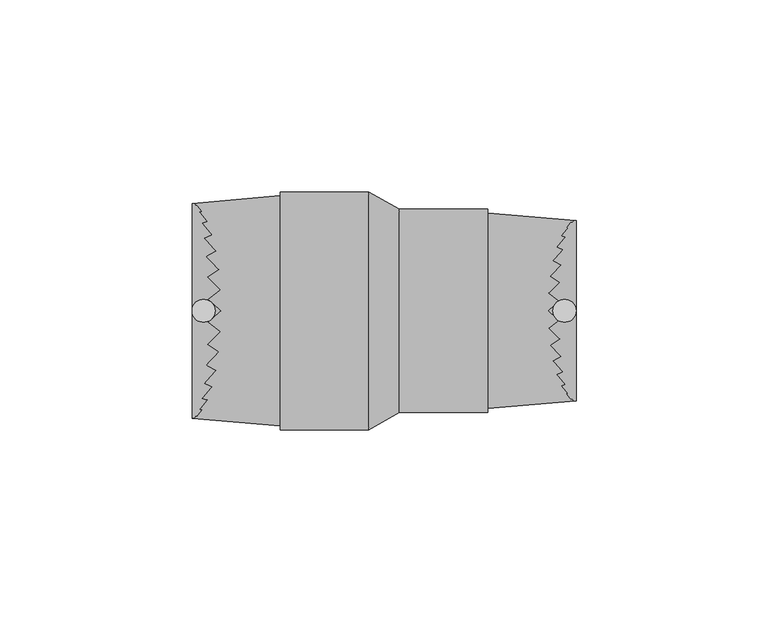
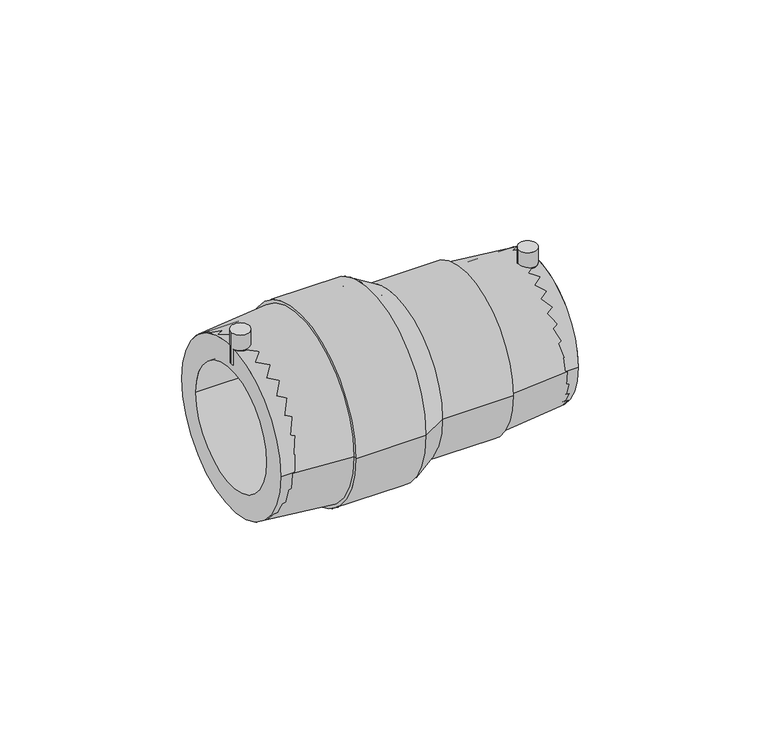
"""IFC4 building model written with IfcOpenShell, lengths in millimetres: pipe fitting geometry, EGB_VASEN_ PPR_Manguito reductor electrosoldable WXRD110 : Manguito reductor electrosoldable WXRD110."""

from ifc_helpers import new_model, si_unit, point, frame, frame_2d, origin, origin_2d, place, context, project, spatial, polyline, circle_curve, trimmed, segment, composite_curve, outline, extrude, source, transform, mapped, element, save
from ifc_brep_helpers import plane_surface, cylinder_surface, revolved_surface, advanced_brep


def pipe_fitting_1388f5a4(model_context):
    return source(origin(), model_context, "Body", "SolidModel", [
        extrude(outline(composite_curve([segment(trimmed(circle_curve(frame_2d((47.0, 0.0)), 3.0), [point((44.0, 0.0))], [point((50.0, 0.0))], False, "CARTESIAN"), True, "CONTINUOUS"), segment(trimmed(circle_curve(frame_2d((47.0, 0.0)), 3.0), [point((50.0, 0.0))], [point((44.0, 0.0))], False, "CARTESIAN"), True, "CONTINUOUS")], self_intersect=False)), frame((0.0, 0.0, 18.0), z_axis=(0.0, 0.0, 1.0), x_axis=(1.0, 0.0, 0.0)), (0.0, 0.0, 1.0), 10.5),
        extrude(outline(composite_curve([segment(trimmed(circle_curve(frame_2d((-47.0, 0.0)), 3.0), [point((-50.0, 0.0))], [point((-44.0, 0.0))], False, "CARTESIAN"), True, "CONTINUOUS"), segment(trimmed(circle_curve(frame_2d((-47.0, 0.0)), 3.0), [point((-44.0, 0.0))], [point((-50.0, 0.0))], False, "CARTESIAN"), True, "CONTINUOUS")], self_intersect=False)), frame((0.0, 0.0, 22.0), z_axis=(0.0, 0.0, 1.0), x_axis=(1.0, 0.0, 0.0)), (0.0, 0.0, 1.0), 11.0),
        extrude(outline(composite_curve([segment(trimmed(circle_curve(origin_2d(), 23.5), [point((-23.5, 0.0))], [point((23.5, 0.0))], False, "CARTESIAN"), True, "CONTINUOUS"), segment(trimmed(circle_curve(origin_2d(), 23.5), [point((23.5, 0.0))], [point((-23.5, 0.0))], False, "CARTESIAN"), True, "CONTINUOUS")], self_intersect=False), holes=[composite_curve([segment(trimmed(circle_curve(origin_2d(), 16.0), [point((-16.0, 0.0))], [point((16.0, 0.0))], True, "CARTESIAN"), True, "CONTINUOUS"), segment(trimmed(circle_curve(origin_2d(), 16.0), [point((16.0, 0.0))], [point((-16.0, 0.0))], True, "CARTESIAN"), True, "CONTINUOUS")], self_intersect=False)]), frame((4.0, 0.0, 0.0), z_axis=(1.0, 0.0, 0.0), x_axis=(0.0, 1.0, 0.0)), (0.0, 0.0, 1.0), 46.0),
        extrude(outline(composite_curve([segment(trimmed(circle_curve(origin_2d(), 28.0), [point((-28.0, 0.0))], [point((28.0, 0.0))], False, "CARTESIAN"), True, "CONTINUOUS"), segment(trimmed(circle_curve(origin_2d(), 28.0), [point((28.0, 0.0))], [point((-28.0, 0.0))], False, "CARTESIAN"), True, "CONTINUOUS")], self_intersect=False), holes=[composite_curve([segment(trimmed(circle_curve(origin_2d(), 20.0), [point((-20.0, 0.0))], [point((20.0, 0.0))], True, "CARTESIAN"), True, "CONTINUOUS"), segment(trimmed(circle_curve(origin_2d(), 20.0), [point((20.0, 0.0))], [point((-20.0, 0.0))], True, "CARTESIAN"), True, "CONTINUOUS")], self_intersect=False)]), frame((-50.0, 0.0, 0.0), z_axis=(1.0, 0.0, 0.0), x_axis=(0.0, 1.0, 0.0)), (0.0, 0.0, 1.0), 46.0),
        advanced_brep(
        [(4.0, -23.5, 0.0), (4.0, 23.5, 0.0), (-4.0, -28.0, 0.0), (-4.0, 28.0, 0.0)],
        [
            (0, 1, circle_curve(frame((4.0, 0.0, 0.0), z_axis=(1.0, 0.0, 0.0), x_axis=(0.0, -1.0, 0.0)), 23.5)),
            (1, 0, circle_curve(frame((4.0, 0.0, 0.0), z_axis=(1.0, 0.0, 0.0), x_axis=(0.0, 1.0, 0.0)), 23.5)),
            (2, 3, circle_curve(frame((-4.0, 0.0, 0.0), z_axis=(-1.0, 0.0, 0.0), x_axis=(0.0, 1.0, 0.0)), 28.0)),
            (3, 2, circle_curve(frame((-4.0, 0.0, 0.0), z_axis=(-1.0, 0.0, 0.0), x_axis=(0.0, -1.0, 0.0)), 28.0)),
            (3, 1),
            (0, 2),
        ],
        [
            plane_surface(frame((4.0, 0.0, 0.0), z_axis=(1.0, 0.0, 0.0), x_axis=(0.0, 0.0, -1.0))),
            plane_surface(frame((-4.0, 0.0, 0.0), z_axis=(-1.0, 0.0, 0.0), x_axis=(0.0, 0.0, -1.0))),
            revolved_surface(polyline([(4.0, -23.50000000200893, 0.0), (-4.0, -28.0, 0.0)]), (45.7777778, 0.0, 0.0), (-1.0, 0.0, 0.0)),
            revolved_surface(polyline([(4.0, 23.50000000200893, 0.0), (-4.0, 28.0, 0.0)]), (45.7777778, 0.0, 0.0), (-1.0, 0.0, 0.0)),
        ],
        [
            (0, [[1, 2]]),
            (1, [[3, 4]]),
            (2, [[-4, 5, -1, 6]]),
            (3, [[-3, -6, -2, -5]]),
        ],
    ),
        advanced_brep(
        [(4.0, -23.5, 0.0), (4.0, 23.5, 0.0), (-4.0, 28.0, 0.0), (-4.0, -28.0, 0.0), (50.0, -23.5, 0.0), (50.0, 23.5, 0.0), (27.0, -25.5, 0.0), (27.0, 25.5, 0.0), (27.0, -26.5, 0.0), (27.0, 26.5, 0.0), (4.0, -26.5, 0.0), (4.0, 26.5, 0.0), (-4.0, -31.0, 0.0), (-4.0, 31.0, 0.0), (-27.0, -31.0, 0.0), (-27.0, 31.0, 0.0), (-27.0, -30.0, 0.0), (-27.0, 30.0, 0.0), (-50.0, -28.0, 0.0), (-50.0, 28.0, 0.0)],
        [
            (0, 1, circle_curve(frame((4.0, 0.0, 0.0), z_axis=(1.0, 0.0, 0.0), x_axis=(0.0, 1.0, 0.0)), 23.5)),
            (1, 2),
            (2, 3, circle_curve(frame((-4.0, 0.0, 0.0), z_axis=(-1.0, 0.0, 0.0), x_axis=(0.0, 1.0, 0.0)), 28.0)),
            (3, 0),
            (1, 0, circle_curve(frame((4.0, 0.0, 0.0), z_axis=(1.0, 0.0, 0.0), x_axis=(0.0, 1.0, 0.0)), 23.5)),
            (3, 2, circle_curve(frame((-4.0, 0.0, 0.0), z_axis=(-1.0, 0.0, 0.0), x_axis=(0.0, 1.0, 0.0)), 28.0)),
            (4, 5, circle_curve(frame((50.0, 0.0, 0.0), z_axis=(1.0, 0.0, 0.0), x_axis=(0.0, 1.0, 0.0)), 23.5)),
            (5, 1),
            (0, 4),
            (5, 4, circle_curve(frame((50.0, 0.0, 0.0), z_axis=(1.0, 0.0, 0.0), x_axis=(0.0, 1.0, 0.0)), 23.5)),
            (6, 7, circle_curve(frame((27.0, 0.0, 0.0), z_axis=(1.0, 0.0, 0.0), x_axis=(0.0, 1.0, 0.0)), 25.5)),
            (7, 5),
            (4, 6),
            (7, 6, circle_curve(frame((27.0, 0.0, 0.0), z_axis=(1.0, 0.0, 0.0), x_axis=(0.0, 1.0, 0.0)), 25.5)),
            (8, 9, circle_curve(frame((27.0, 0.0, 0.0), z_axis=(1.0, 0.0, 0.0), x_axis=(0.0, 1.0, 0.0)), 26.5)),
            (9, 7),
            (6, 8),
            (9, 8, circle_curve(frame((27.0, 0.0, 0.0), z_axis=(1.0, 0.0, 0.0), x_axis=(0.0, 1.0, 0.0)), 26.5)),
            (10, 11, circle_curve(frame((4.0, 0.0, 0.0), z_axis=(1.0, 0.0, 0.0), x_axis=(0.0, 1.0, 0.0)), 26.5)),
            (11, 9),
            (8, 10),
            (11, 10, circle_curve(frame((4.0, 0.0, 0.0), z_axis=(1.0, 0.0, 0.0), x_axis=(0.0, 1.0, 0.0)), 26.5)),
            (12, 13, circle_curve(frame((-4.0, 0.0, 0.0), z_axis=(1.0, 0.0, 0.0), x_axis=(0.0, 1.0, 0.0)), 31.0)),
            (13, 11),
            (10, 12),
            (13, 12, circle_curve(frame((-4.0, 0.0, 0.0), z_axis=(1.0, 0.0, 0.0), x_axis=(0.0, 1.0, 0.0)), 31.0)),
            (14, 15, circle_curve(frame((-27.0, 0.0, 0.0), z_axis=(1.0, 0.0, 0.0), x_axis=(0.0, 1.0, 0.0)), 31.0)),
            (15, 13),
            (12, 14),
            (15, 14, circle_curve(frame((-27.0, 0.0, 0.0), z_axis=(1.0, 0.0, 0.0), x_axis=(0.0, 1.0, 0.0)), 31.0)),
            (16, 17, circle_curve(frame((-27.0, 0.0, 0.0), z_axis=(1.0, 0.0, 0.0), x_axis=(0.0, 1.0, 0.0)), 30.0)),
            (17, 15),
            (14, 16),
            (17, 16, circle_curve(frame((-27.0, 0.0, 0.0), z_axis=(1.0, 0.0, 0.0), x_axis=(0.0, 1.0, 0.0)), 30.0)),
            (18, 19, circle_curve(frame((-50.0, 0.0, 0.0), z_axis=(1.0, 0.0, 0.0), x_axis=(0.0, 1.0, 0.0)), 28.0)),
            (19, 17),
            (16, 18),
            (19, 18, circle_curve(frame((-50.0, 0.0, 0.0), z_axis=(1.0, 0.0, 0.0), x_axis=(0.0, 1.0, 0.0)), 28.0)),
            (2, 19),
            (18, 3),
        ],
        [
            revolved_surface(polyline([(-4.0, 28.0, 0.0), (4.0, 23.5, 0.0)]), (-85.0, 0.0, 0.0), (-1.0, 0.0, 0.0)),
            revolved_surface(polyline([(4.0, 23.5, 0.0), (50.0, 23.5, 0.0)]), (-85.0, 0.0, 0.0), (-1.0, 0.0, 0.0)),
            revolved_surface(polyline([(50.0, 23.5, 0.0), (27.0, 25.5, 0.0)]), (-85.0, 0.0, 0.0), (-1.0, 0.0, 0.0)),
            plane_surface(frame((27.0, 0.0, 0.0), z_axis=(1.0, 0.0, 0.0), x_axis=(0.0, 1.0, 0.0))),
            cylinder_surface(frame((-85.0, 0.0, 0.0), z_axis=(-1.0, 0.0, 0.0), x_axis=(0.0, 1.0, 0.0)), 26.5),
            revolved_surface(polyline([(4.0, 26.5, 0.0), (-4.0, 31.0, 0.0)]), (-85.0, 0.0, 0.0), (-1.0, 0.0, 0.0)),
            cylinder_surface(frame((-85.0, 0.0, 0.0), z_axis=(-1.0, 0.0, 0.0), x_axis=(0.0, 1.0, 0.0)), 31.0),
            plane_surface(frame((-27.0, 0.0, 0.0), z_axis=(-1.0, 0.0, 0.0), x_axis=(0.0, 1.0, 0.0))),
            revolved_surface(polyline([(-27.0, 30.0, 0.0), (-50.0, 28.0, 0.0)]), (-85.0, 0.0, 0.0), (-1.0, 0.0, 0.0)),
            revolved_surface(polyline([(-50.0, 28.0, 0.0), (-4.0, 28.0, 0.0)]), (-85.0, 0.0, 0.0), (-1.0, 0.0, 0.0)),
        ],
        [
            (0, [[1, 2, 3, 4]]),
            (0, [[5, -4, 6, -2]]),
            (1, [[7, 8, -1, 9]]),
            (1, [[10, -9, -5, -8]]),
            (2, [[11, 12, -7, 13]]),
            (2, [[14, -13, -10, -12]]),
            (3, [[15, 16, -11, 17]]),
            (3, [[18, -17, -14, -16]]),
            (4, [[19, 20, -15, 21]]),
            (4, [[22, -21, -18, -20]]),
            (5, [[23, 24, -19, 25]]),
            (5, [[26, -25, -22, -24]]),
            (6, [[27, 28, -23, 29]]),
            (6, [[30, -29, -26, -28]]),
            (7, [[31, 32, -27, 33]]),
            (7, [[34, -33, -30, -32]]),
            (8, [[35, 36, -31, 37]]),
            (8, [[38, -37, -34, -36]]),
            (9, [[-3, 39, -35, 40]]),
            (9, [[-6, -40, -38, -39]]),
        ],
    ),
    ])


if __name__ == "__main__":
    model = new_model("IFC4")
    model_context = context("Model", 3, world=origin())
    ifc_project = project(units=[si_unit("LENGTHUNIT", "METRE", prefix="MILLI")], contexts=[model_context])
    site = spatial("IfcSite", under=ifc_project)
    building = spatial("IfcBuilding", under=site)
    placement = place(None, origin())
    pipe_fitting_shape = pipe_fitting_1388f5a4(model_context)
    element("IfcPipeFitting", 1, ObjectType="EGB_VASEN_ PPR_Manguito reductor electrosoldable WXRD110 : Manguito reductor electrosoldable WXRD110", at=placement, inside=building, context=model_context, shape_type="MappedRepresentation", body=[
        mapped(pipe_fitting_shape, transform((0.0, 0.0, 0.0), x_axis=(1.0, 0.0, 0.0), y_axis=(0.0, 1.0, 0.0), z_axis=(0.0, 0.0, 1.0))),
    ])
    save(model, "model.ifc")
